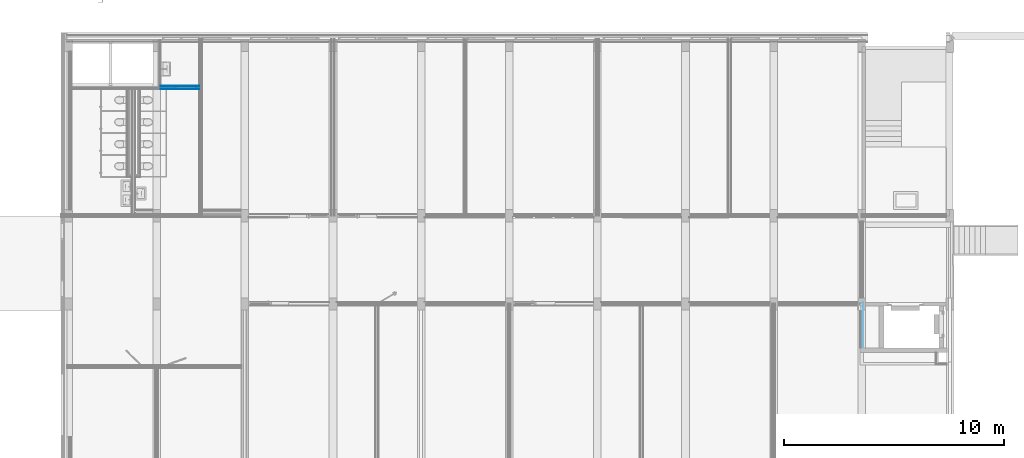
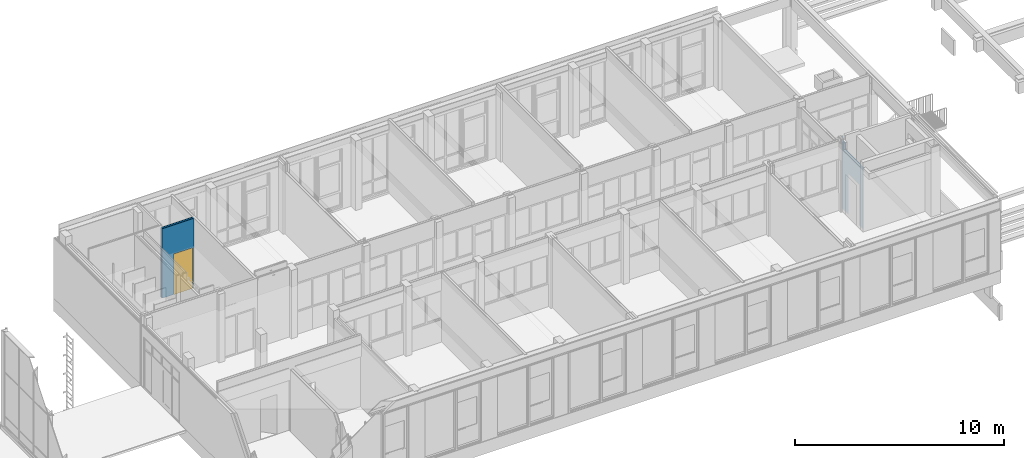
# One storey, part 40 of 54: 5 building element parts, 1 door, 2 openings, 2 elements without a shape of their own, plus 2 elements that do not belong to this part.
"""IFC2X3 building model written with IfcOpenShell, lengths in millimetres."""

import ifcopenshell
import ifcopenshell.guid

model = None  # the IFC model being written
_history = None  # IfcOwnerHistory: only IFC2X3 demands one
_inside = {}  # id of a spatial element -> (the spatial element, [elements in it])
_under = {}  # id of a project, library or spatial element -> (it, [spatial elements below it])
_declared = {}  # id of a project -> (the project, [libraries it declares])
_typed = {}  # id of a type object -> (the type object, [elements of that type])
_made_of = {}  # id of a material, layer set ... -> (it, [elements and type objects made of it])


def new_model(schema):
    """Start an empty IFC model of exactly this schema.

    Asked for "IFC4X3", IfcOpenShell would pick the latest addendum, in which some entities
    have other attributes; the version numbers below select the first issue.
    IFC2X3 requires an IfcOwnerHistory on every rooted entity: one is made here for all.
    """
    global model, _history
    if schema == "IFC4X3":
        model = ifcopenshell.file(schema_version=(4, 3, 0, 0))
    else:
        model = ifcopenshell.file(schema=schema)
    _inside.clear()
    _under.clear()
    _declared.clear()
    _typed.clear()
    _made_of.clear()
    _history = None
    if model.schema == "IFC2X3":
        org = make("IfcOrganization", Name="unknown")
        user = make(
            "IfcPersonAndOrganization",
            ThePerson=make("IfcPerson", FamilyName="unknown"),
            TheOrganization=org,
        )
        app = make(
            "IfcApplication",
            ApplicationDeveloper=org,
            Version="unknown",
            ApplicationFullName="unknown",
            ApplicationIdentifier="unknown",
        )
        _history = make(
            "IfcOwnerHistory",
            OwningUser=user,
            OwningApplication=app,
            ChangeAction="ADDED",
            CreationDate=0,
        )
    return model


def make(cls, **values):
    """One entity of the class cls with the attributes given. An attribute that is None is left unset."""
    return model.create_entity(
        cls, **{name: value for name, value in values.items() if value is not None}
    )


def entity(cls, *values):
    """Any entity or typed value of the class cls, its attributes in the order of the schema. None: left unset."""
    e = model.create_entity(cls)
    for i, value in enumerate(values):
        if value is not None:
            e[i] = value
    return e


def rooted(cls, **values):
    """An entity with a GlobalId (a new one), such as an element, a storey or a relation."""
    return make(cls, GlobalId=ifcopenshell.guid.new(), OwnerHistory=_history, **values)


def si_unit(unit_type, name, prefix=None):
    """IfcSIUnit, for example si_unit("LENGTHUNIT", "METRE", prefix="MILLI")."""
    return make("IfcSIUnit", UnitType=unit_type, Prefix=prefix, Name=name)


def converted_unit(unit_type, name, factor, base, dimensions=None, offset=None):
    """IfcConversionBasedUnit, such as the inch: factor (a typed value) times the base unit."""
    return make(
        "IfcConversionBasedUnit"
        if offset is None
        else "IfcConversionBasedUnitWithOffset",
        ConversionOffset=offset,
        Dimensions=None
        if dimensions is None
        else entity("IfcDimensionalExponents", *dimensions),
        UnitType=unit_type,
        Name=name,
        ConversionFactor=make(
            "IfcMeasureWithUnit", ValueComponent=factor, UnitComponent=base
        ),
    )


def derived_unit(unit_type, elements):
    """IfcDerivedUnit: a product of units, each with its exponent."""
    return make(
        "IfcDerivedUnit",
        Elements=[
            make("IfcDerivedUnitElement", Unit=unit, Exponent=power)
            for unit, power in elements
        ],
        UnitType=unit_type,
    )


def money_unit(currency):
    """IfcMonetaryUnit."""
    return make("IfcMonetaryUnit", Currency=currency)


def assignment(units):
    """IfcUnitAssignment: the units of a project."""
    return None if units is None else make("IfcUnitAssignment", Units=units)


def point(xyz):
    """IfcCartesianPoint."""
    return None if xyz is None else make("IfcCartesianPoint", Coordinates=xyz)


def direction(xyz):
    """IfcDirection."""
    return None if xyz is None else make("IfcDirection", DirectionRatios=xyz)


def frame(location, z_axis=None, x_axis=None):
    """IfcAxis2Placement3D, a coordinate frame: its origin and axes. An axis left out is left unset."""
    return make(
        "IfcAxis2Placement3D",
        Location=point(location),
        Axis=direction(z_axis),
        RefDirection=direction(x_axis),
    )


def origin_with_axes():
    """The frame at (0, 0, 0) with the z axis (0, 0, 1) and the x axis (1, 0, 0) written out."""
    return frame((0.0, 0.0, 0.0), z_axis=(0.0, 0.0, 1.0), x_axis=(1.0, 0.0, 0.0))


def place(relative_to, where):
    """IfcLocalPlacement: puts the frame where relative to a parent placement (None: the world)."""
    return make(
        "IfcLocalPlacement", PlacementRelTo=relative_to, RelativePlacement=where
    )


def context(
    kind, dimensions, precision=None, world=None, true_north=None, identifier=None
):
    """IfcGeometricRepresentationContext, for example the 3D "Model" context."""
    return make(
        "IfcGeometricRepresentationContext",
        ContextIdentifier=identifier,
        ContextType=kind,
        CoordinateSpaceDimension=dimensions,
        Precision=precision,
        WorldCoordinateSystem=world,
        TrueNorth=true_north,
    )


def subcontext(parent, identifier, kind, view, scale=None):
    """IfcGeometricRepresentationSubContext, for example "Body" below "Model"."""
    return make(
        "IfcGeometricRepresentationSubContext",
        ContextIdentifier=identifier,
        ContextType=kind,
        ParentContext=parent,
        TargetScale=scale,
        TargetView=view,
    )


def project(units=None, contexts=None):
    """IfcProject with its units and contexts."""
    return rooted(
        "IfcProject",
        Name="project",
        RepresentationContexts=contexts,
        UnitsInContext=assignment(units),
    )


def spatial(cls, under=None, at=None, **own):
    """A site, building, storey or space (cls), placed at a placement, below another one or the project."""
    s = rooted(cls, ObjectPlacement=at, **own)
    if under is not None:
        _under.setdefault(under.id(), (under, []))[1].append(s)
    return s


def faces_of(points, faces, orient=None, outer=None):
    """IfcFace entities. A face is a list of loops; a loop is a list of indices into points, from 0.

    orient and outer hold one flag for each loop. By default every Orientation is true, the
    first loop of a face is its IfcFaceOuterBound and the others are IfcFaceBound.
    """
    made = []
    for i, loops in enumerate(faces):
        bounds = []
        for j, loop in enumerate(loops):
            is_outer = j == 0 if outer is None else outer[i][j]
            bounds.append(
                make(
                    "IfcFaceOuterBound" if is_outer else "IfcFaceBound",
                    Bound=make("IfcPolyLoop", Polygon=[points[k] for k in loop]),
                    Orientation=True if orient is None else orient[i][j],
                )
            )
        made.append(make("IfcFace", Bounds=bounds))
    return made


def faceted_brep(points, faces, orient=None, outer=None, voids=None):
    """IfcFacetedBrep: a solid bounded by flat faces; with voids (closed shells), ...WithVoids."""
    shared = [point(p) for p in points]
    hull = make("IfcClosedShell", CfsFaces=faces_of(shared, faces, orient, outer))
    if voids is None:
        return make("IfcFacetedBrep", Outer=hull)
    return make(
        "IfcFacetedBrepWithVoids",
        Outer=hull,
        Voids=[
            make(cls, CfsFaces=faces_of(shared, fs, o, b)) for cls, fs, o, b in voids
        ],
    )


def shape(context_of_items, identifier, shape_type, items):
    """IfcShapeRepresentation: the items that make up one representation, for example the "Body"."""
    return make(
        "IfcShapeRepresentation",
        ContextOfItems=context_of_items,
        RepresentationIdentifier=identifier,
        RepresentationType=shape_type,
        Items=items,
    )


def material(Name=None, Category=None):
    """IfcMaterial."""
    return make("IfcMaterial", Name=Name, Category=Category)


def made_of(thing, what):
    """Note that an element or type object is made of a material, layer set ...; save() writes the relation."""
    if what is not None:
        _made_of.setdefault(what.id(), (what, []))[1].append(thing)
    return thing


def type_object(cls, material=None, **own):
    """A type object (cls), such as IfcWallType, which elements share."""
    return made_of(rooted(cls, **own), material)


def element(
    cls,
    number,
    at=None,
    inside=None,
    cuts=None,
    type_object=None,
    material=None,
    context=None,
    identifier="Body",
    shape_type=None,
    held_by="IfcProductDefinitionShape",
    body=None,
    shapes=None,
    **own,
):
    """One element of the class cls, such as IfcWall. Its Tag is "e" and its number.

    at: its placement. inside: the storey or other place that contains it. cuts: it is an
    opening in that element (IfcRelVoidsElement). A single representation is given by context,
    identifier, shape_type and body (its items); several are given by shapes. held_by: the class
    of the entity that holds the representations. save() writes the other relations.
    """
    e = rooted(cls, Tag="e%d" % number, ObjectPlacement=at, **own)
    if body is not None:
        shapes = [shape(context, identifier, shape_type, body)]
    if shapes is not None:
        e.Representation = make(held_by, Representations=shapes)
    if inside is not None:
        _inside.setdefault(inside.id(), (inside, []))[1].append(e)
    if cuts is not None:
        rooted(
            "IfcRelVoidsElement", RelatingBuildingElement=cuts, RelatedOpeningElement=e
        )
    if type_object is not None:
        _typed.setdefault(type_object.id(), (type_object, []))[1].append(e)
    return made_of(e, material)


def fill(opening, filler):
    """IfcRelFillsElement: the door or window that sits in an opening."""
    return rooted(
        "IfcRelFillsElement",
        RelatingOpeningElement=opening,
        RelatedBuildingElement=filler,
    )


def aggregate(whole, parts):
    """IfcRelAggregates: a whole, such as a stair, and the parts it consists of."""
    return rooted("IfcRelAggregates", RelatingObject=whole, RelatedObjects=parts)


def save(model, path):
    """Write the relations noted so far, then the file.

    IfcRelAggregates (storeys below a building ...), IfcRelContainedInSpatialStructure (elements
    in a storey), IfcRelDefinesByType, IfcRelAssociatesMaterial and IfcRelDeclares: one each for
    every whole, place, type object, material and project.
    """
    for whole, parts in _under.values():
        aggregate(whole, parts)
    for where, things in _inside.values():
        rooted(
            "IfcRelContainedInSpatialStructure",
            RelatedElements=things,
            RelatingStructure=where,
        )
    for kind, things in _typed.values():
        rooted("IfcRelDefinesByType", RelatedObjects=things, RelatingType=kind)
    for what, things in _made_of.values():
        rooted("IfcRelAssociatesMaterial", RelatedObjects=things, RelatingMaterial=what)
    for by, libraries in _declared.values():
        rooted("IfcRelDeclares", RelatingContext=by, RelatedDefinitions=libraries)
    model.write(path)


model = new_model("IFC2X3")

# Units and contexts
model_context = context("Model", 3, precision=0.01, world=origin_with_axes(), true_north=direction((0.0, 1.0)))
body_context = subcontext(model_context, "Body", "Model", "MODEL_VIEW")
ifc_project = project(units=[si_unit("LENGTHUNIT", "METRE", prefix="MILLI"), si_unit("AREAUNIT", "SQUARE_METRE"), si_unit("VOLUMEUNIT", "CUBIC_METRE"), converted_unit("PLANEANGLEUNIT", "DEGREE", entity("IfcPlaneAngleMeasure", 0.0174532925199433), si_unit("PLANEANGLEUNIT", "RADIAN"), dimensions=[0, 0, 0, 0, 0, 0, 0]), money_unit("EUR"), converted_unit("TIMEUNIT", "Year", entity("IfcTimeMeasure", 31557600.0), si_unit("TIMEUNIT", "SECOND"), dimensions=[0, 0, 1, 0, 0, 0, 0]), si_unit("MASSUNIT", "GRAM", prefix="KILO"), si_unit("THERMODYNAMICTEMPERATUREUNIT", "DEGREE_CELSIUS"), si_unit("LUMINOUSINTENSITYUNIT", "LUMEN"), si_unit("ENERGYUNIT", "JOULE", prefix="MEGA"), derived_unit("THERMALCONDUCTANCEUNIT", [(si_unit("POWERUNIT", "WATT"), 1), (si_unit("LENGTHUNIT", "METRE"), -1), (si_unit("THERMODYNAMICTEMPERATUREUNIT", "KELVIN"), -1)]), derived_unit("SPECIFICHEATCAPACITYUNIT", [(si_unit("ENERGYUNIT", "JOULE"), 1), (si_unit("MASSUNIT", "GRAM", prefix="KILO"), -1), (si_unit("THERMODYNAMICTEMPERATUREUNIT", "KELVIN"), -1)]), derived_unit("MASSDENSITYUNIT", [(si_unit("MASSUNIT", "GRAM", prefix="KILO"), 1), (si_unit("VOLUMEUNIT", "CUBIC_METRE"), -1)])], contexts=[model_context])

# Site, building, storey
site_placement = place(None, origin_with_axes())
site = spatial("IfcSite", under=ifc_project, at=site_placement, Name="<site naam>", CompositionType="ELEMENT")
building_placement = place(site_placement, origin_with_axes())
building = spatial("IfcBuilding", under=site, at=building_placement, Name="<Naam gebouw>", CompositionType="ELEMENT")
storey_placement = place(building_placement, frame((0.0, 0.0, 8500.0), z_axis=(0.0, 0.0, 1.0), x_axis=(1.0, 0.0, 0.0)))
storey = spatial("IfcBuildingStorey", under=building, at=storey_placement, Name="02 2e verdieping", CompositionType="ELEMENT", Elevation=8500.0)

# Door
door_style = type_object("IfcDoorStyle", Name="D1 27", ConstructionType="NOTDEFINED", OperationType="SINGLE_SWING_LEFT", ParameterTakesPrecedence=False, Sizeable=False)
wall_1_placement = place(storey_placement, frame((18000.10069231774, 17899.99999999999, 0.0), z_axis=(0.0, 0.0, 1.0), x_axis=(-1.0, 0.0, 0.0)))
opening_1_placement = place(wall_1_placement, frame((679.8331591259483, 0.0, 0.0), z_axis=(0.0, 0.0, 1.0), x_axis=(1.0, 0.0, 0.0)))
door_placement = place(opening_1_placement, frame((-449.9999999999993, 0.0, 0.0), z_axis=(0.0, 0.0, 1.0), x_axis=(1.0, 0.0, 0.0)))
door = element("IfcDoor", 1, at=door_placement, inside=storey, type_object=door_style, Name="22_BI-A-04_305", ObjectType="DOOR", OverallHeight=2367.0, OverallWidth=1034.0, context=body_context, shape_type="Brep", body=[
    faceted_brep([(916.9999999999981, 120.000000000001, 12.00000000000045), (916.9999999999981, 160.0000000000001, 12.00000000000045), (-16.99999999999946, 160.0000000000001, 12.00000000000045), (-16.99999999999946, 120.000000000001, 12.00000000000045), (0.0, 120.000000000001, 12.00000000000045), (0.0, 45.99999999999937, 12.00000000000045), (899.9999999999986, 45.99999999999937, 12.00000000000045), (899.9999999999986, 120.000000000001, 12.00000000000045), (916.9999999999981, 120.000000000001, 0.0), (916.9999999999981, 160.0000000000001, 0.0), (-16.99999999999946, 160.0000000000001, 0.0), (-16.99999999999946, 120.000000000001, 0.0), (0.0, 120.000000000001, 0.0), (0.0, 45.99999999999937, 0.0), (899.9999999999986, 45.99999999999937, 0.0), (899.9999999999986, 120.000000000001, 0.0)], [[[0, 1, 2, 3, 4, 5, 6, 7]], [[8, 9, 1, 0]], [[9, 10, 2, 1]], [[11, 3, 2, 10]], [[3, 11, 12, 4]], [[5, 4, 12, 13]], [[6, 5, 13, 14]], [[14, 15, 7, 6]], [[7, 15, 8, 0]], [[15, 14, 13, 12, 11, 10, 9, 8]]]),
    faceted_brep([(899.9999999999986, 120.000000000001, 0.0), (899.9999999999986, 45.99999999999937, 0.0), (899.9999999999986, 45.99999999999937, 2300.000000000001), (899.9999999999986, 120.000000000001, 2300.000000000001), (916.9999999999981, 120.000000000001, 0.0), (916.9999999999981, 160.0000000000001, 0.0), (966.9999999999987, 160.0000000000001, 0.0), (966.9999999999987, 45.99999999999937, 0.0), (966.9999999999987, 45.99999999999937, 2300.000000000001), (916.9999999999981, 120.000000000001, 2300.000000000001), (966.9999999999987, 160.0000000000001, 2300.000000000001), (916.9999999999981, 160.0000000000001, 2300.000000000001)], [[[0, 1, 2, 3]], [[4, 5, 6, 7, 1, 0]], [[1, 7, 8, 2]], [[9, 3, 2, 8, 10, 11]], [[9, 4, 0, 3]], [[11, 5, 4, 9]], [[11, 10, 6, 5]], [[6, 10, 8, 7]]]),
    faceted_brep([(-16.99999999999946, 120.000000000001, 2300.000000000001), (-16.99999999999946, 160.0000000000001, 2300.000000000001), (-67.00000000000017, 160.0000000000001, 2300.000000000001), (-67.00000000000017, 45.99999999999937, 2300.000000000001), (0.0, 45.99999999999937, 2300.000000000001), (0.0, 120.000000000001, 2300.000000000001), (-16.99999999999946, 120.000000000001, 0.0), (-16.99999999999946, 160.0000000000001, 0.0), (-67.00000000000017, 160.0000000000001, 0.0), (-67.00000000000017, 45.99999999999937, 0.0), (0.0, 45.99999999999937, 0.0), (0.0, 120.000000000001, 0.0)], [[[0, 1, 2, 3, 4, 5]], [[0, 6, 7, 1]], [[7, 8, 2, 1]], [[2, 8, 9, 3]], [[3, 9, 10, 4]], [[5, 4, 10, 11]], [[5, 11, 6, 0]], [[6, 11, 10, 9, 8, 7]]]),
    faceted_brep([(916.9999999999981, 160.0000000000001, 2317.0), (-16.99999999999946, 160.0000000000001, 2317.0), (-16.99999999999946, 160.0000000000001, 2300.000000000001), (-67.00000000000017, 160.0000000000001, 2300.000000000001), (-67.00000000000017, 160.0000000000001, 2367.000000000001), (966.9999999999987, 160.0000000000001, 2367.000000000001), (966.9999999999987, 160.0000000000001, 2300.000000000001), (916.9999999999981, 160.0000000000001, 2300.000000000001), (916.9999999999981, 120.000000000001, 2317.0), (-16.99999999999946, 120.000000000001, 2317.0), (-16.99999999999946, 120.000000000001, 2300.000000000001), (0.0, 120.000000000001, 2300.000000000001), (0.0, 45.99999999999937, 2300.000000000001), (-67.00000000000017, 45.99999999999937, 2300.000000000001), (-67.00000000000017, 45.99999999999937, 2367.000000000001), (966.9999999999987, 45.99999999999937, 2367.000000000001), (966.9999999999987, 45.99999999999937, 2300.000000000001), (916.9999999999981, 120.000000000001, 2300.000000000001), (899.9999999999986, 45.99999999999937, 2300.000000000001), (899.9999999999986, 120.000000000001, 2300.000000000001)], [[[0, 1, 2, 3, 4, 5, 6, 7]], [[0, 8, 9, 1]], [[1, 9, 10, 2]], [[10, 11, 12, 13, 3, 2]], [[4, 3, 13, 14]], [[5, 4, 14, 15]], [[6, 5, 15, 16]], [[17, 7, 6, 16, 18, 19]], [[7, 17, 8, 0]], [[10, 9, 8, 17, 19, 11]], [[19, 18, 12, 11]], [[12, 18, 16, 15, 14, 13]]]),
    faceted_brep([(-16.99999999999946, 160.0000000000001, 12.00000000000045), (916.9999999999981, 160.0000000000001, 12.00000000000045), (916.9999999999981, 120.000000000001, 12.00000000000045), (-16.99999999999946, 120.000000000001, 12.00000000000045), (-16.99999999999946, 160.0000000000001, 2317.0), (916.9999999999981, 160.0000000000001, 2317.0), (916.9999999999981, 120.000000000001, 2317.0), (-16.99999999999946, 120.000000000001, 2317.0)], [[[0, 1, 2, 3]], [[0, 4, 5, 1]], [[1, 5, 6, 2]], [[3, 2, 6, 7]], [[4, 0, 3, 7]], [[5, 4, 7, 6]]]),
])

# Wall, opening
wall_type = type_object("IfcWallType", Name="MS-01 GF 150 ECO DGS/2.100.2.A 150", PredefinedType="NOTDEFINED")
wall_1 = element("IfcWall", 2, at=wall_1_placement, inside=storey, type_object=wall_type, Name="22_Binnenwand_MS-01")
opening_1 = element("IfcOpeningElement", 3, at=opening_1_placement, cuts=wall_1, Name="22_BI-A-04_305", context=body_context, shape_type="Brep", body=[
    faceted_brep([(-516.9999999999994, -1.000000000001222, 2367.000000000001), (-516.9999999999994, -1.000000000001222, 0.0), (516.9999999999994, -1.000000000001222, 0.0), (516.9999999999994, -1.000000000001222, 2367.000000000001), (-516.9999999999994, 150.9999999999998, 2367.000000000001), (-516.9999999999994, 150.9999999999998, 0.0), (516.9999999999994, 150.9999999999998, 0.0), (516.9999999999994, 150.9999999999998, 2367.000000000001)], [[[0, 1, 2, 3]], [[4, 5, 1, 0]], [[5, 6, 2, 1]], [[6, 7, 3, 2]], [[7, 4, 0, 3]], [[6, 5, 4, 7]]]),
])

fill(opening_1, door)

# Building element part
ifc_material_1 = material(Name="gipsplaat")
building_element_part_1_placement = place(wall_1_placement, origin_with_axes())
building_element_part_1 = element("IfcBuildingElementPart", 4, at=building_element_part_1_placement, material=ifc_material_1, Name="gipsplaat", context=body_context, shape_type="Brep", body=[
    faceted_brep([(1825.100692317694, 137.4999999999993, 4050.000014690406), (74.99999999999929, 137.4999999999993, 4050.000014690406), (74.99999999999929, 137.4999999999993, 0.0), (75.16236737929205, 137.4999999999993, 0.0), (75.16236737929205, 137.4999999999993, 3.000000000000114), (1825.100692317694, 137.4999999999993, 3.000000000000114), (74.99999999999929, 149.9999999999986, 4050.000014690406), (1825.100692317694, 149.9999996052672, 4050.000014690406), (74.99999999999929, 149.9999999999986, 0.0), (75.16236737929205, 149.9999999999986, 0.0), (75.16236737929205, 149.9999999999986, 3.000000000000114), (1825.100692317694, 149.999992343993, 3.000000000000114)], [[[0, 1, 2, 3, 4, 5]], [[6, 1, 0, 7]], [[1, 6, 8, 2]], [[8, 9, 3, 2]], [[10, 4, 3, 9]], [[11, 5, 4, 10]], [[7, 0, 5, 11]], [[6, 7, 11, 10, 9, 8]]]),
])

building_element_part_2_placement = place(wall_1_placement, origin_with_axes())
building_element_part_2 = element("IfcBuildingElementPart", 5, at=building_element_part_2_placement, material=ifc_material_1, Name="gipsplaat", context=body_context, shape_type="Brep", body=[
    faceted_brep([(1825.100692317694, 125.0, 4050.000014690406), (74.99999999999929, 125.0, 4050.000014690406), (74.99999999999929, 125.0, 0.0), (75.16236737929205, 125.0, 0.0), (75.16236737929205, 125.0, 3.000000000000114), (1825.100692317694, 125.0, 3.000000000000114), (74.99999999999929, 137.4999999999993, 4050.000014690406), (1825.100692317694, 137.4999999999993, 4050.000014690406), (74.99999999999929, 137.4999999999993, 0.0), (75.16236737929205, 137.4999999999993, 0.0), (75.16236737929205, 137.4999999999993, 3.000000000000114), (1825.100692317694, 137.4999999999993, 3.000000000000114)], [[[0, 1, 2, 3, 4, 5]], [[6, 1, 0, 7]], [[1, 6, 8, 2]], [[8, 9, 3, 2]], [[10, 4, 3, 9]], [[11, 5, 4, 10]], [[7, 0, 5, 11]], [[6, 7, 11, 10, 9, 8]]]),
])

ifc_material_2 = material(Name="isolatie_steenwol LSW")
building_element_part_3_placement = place(wall_1_placement, origin_with_axes())
building_element_part_3 = element("IfcBuildingElementPart", 6, at=building_element_part_3_placement, material=ifc_material_2, Name="isolatie_steenwol LSW", context=body_context, shape_type="Brep", body=[
    faceted_brep([(1825.100692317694, 24.99999999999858, 4050.000014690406), (74.99999999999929, 24.99999999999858, 4050.000014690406), (74.99999999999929, 24.99999999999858, 0.0), (75.16236737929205, 24.99999999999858, 0.0), (75.16236737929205, 24.99999999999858, 3.000000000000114), (1825.100692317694, 24.99999999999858, 3.000000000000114), (74.99999999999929, 125.0, 4050.000014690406), (1825.100692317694, 125.0, 4050.000014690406), (74.99999999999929, 125.0, 0.0), (75.16236737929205, 125.0, 0.0), (75.16236737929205, 125.0, 3.000000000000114), (1825.100692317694, 125.0, 3.000000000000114)], [[[0, 1, 2, 3, 4, 5]], [[6, 1, 0, 7]], [[1, 6, 8, 2]], [[8, 9, 3, 2]], [[10, 4, 3, 9]], [[11, 5, 4, 10]], [[7, 0, 5, 11]], [[6, 7, 11, 10, 9, 8]]]),
])

building_element_part_4_placement = place(wall_1_placement, origin_with_axes())
building_element_part_4 = element("IfcBuildingElementPart", 7, at=building_element_part_4_placement, material=ifc_material_1, Name="gipsplaat", context=body_context, shape_type="Brep", body=[
    faceted_brep([(1825.100692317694, 12.49999999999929, 4050.000014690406), (74.99999999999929, 12.49999999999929, 4050.000014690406), (74.99999999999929, 12.49999999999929, 0.0), (75.16236737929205, 12.49999999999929, 0.0), (75.16236737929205, 12.49999999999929, 3.000000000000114), (1825.100692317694, 12.49999999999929, 3.000000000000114), (74.99999999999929, 24.99999999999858, 4050.000014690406), (1825.100692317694, 24.99999999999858, 4050.000014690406), (74.99999999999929, 24.99999999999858, 0.0), (75.16236737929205, 24.99999999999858, 0.0), (75.16236737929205, 24.99999999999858, 3.000000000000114), (1825.100692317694, 24.99999999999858, 3.000000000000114)], [[[0, 1, 2, 3, 4, 5]], [[6, 1, 0, 7]], [[1, 6, 8, 2]], [[8, 9, 3, 2]], [[10, 4, 3, 9]], [[11, 5, 4, 10]], [[7, 0, 5, 11]], [[6, 7, 11, 10, 9, 8]]]),
])

building_element_part_5_placement = place(wall_1_placement, origin_with_axes())
building_element_part_5 = element("IfcBuildingElementPart", 8, at=building_element_part_5_placement, material=ifc_material_1, Name="gipsplaat", context=body_context, shape_type="Brep", body=[
    faceted_brep([(1825.100692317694, 0.0, 4050.000014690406), (74.99999999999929, 0.0, 4050.000014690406), (74.99999999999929, 0.0, 0.0), (75.16236737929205, 0.0, 0.0), (75.16236737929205, 0.0, 3.000000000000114), (1825.100692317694, 0.0, 3.000000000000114), (74.99999999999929, 12.49999999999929, 4050.000014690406), (1825.100692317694, 12.49999999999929, 4050.000014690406), (74.99999999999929, 12.49999999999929, 0.0), (75.16236737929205, 12.49999999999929, 0.0), (75.16236737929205, 12.49999999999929, 3.000000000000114), (1825.100692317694, 12.49999999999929, 3.000000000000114)], [[[0, 1, 2, 3, 4, 5]], [[6, 1, 0, 7]], [[1, 6, 8, 2]], [[8, 9, 3, 2]], [[10, 4, 3, 9]], [[11, 5, 4, 10]], [[7, 0, 5, 11]], [[6, 7, 11, 10, 9, 8]]]),
])

aggregate(wall_1, [building_element_part_1, building_element_part_2, building_element_part_3, building_element_part_4, building_element_part_5])

# Wall, opening, building element parts
wall_2_placement = place(storey_placement, frame((48000.00000000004, 8000.000000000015, 0.0), z_axis=(0.0, 0.0, 1.0), x_axis=(0.0, -1.0, 0.0)))
wall_2 = element("IfcWall", 9, at=wall_2_placement, inside=storey, type_object=wall_type, Name="22_Binnenwand_MS-01")
opening_2_placement = place(wall_2_placement, frame((1094.999999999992, 0.0, 0.0), z_axis=(0.0, 0.0, 1.0), x_axis=(1.0, 0.0, 0.0)))
element("IfcOpeningElement", 10, at=opening_2_placement, cuts=wall_2, Name="22_BI-A-04 sp_305", context=body_context, shape_type="Brep", body=[
    faceted_brep([(517.0000000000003, 76.00000000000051, 2367.000000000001), (517.0000000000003, 76.00000000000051, 0.0), (-517.0000000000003, 76.00000000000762, 0.0), (-517.0000000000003, 76.00000000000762, 2367.000000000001), (517.0000000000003, -76.00000000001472, 2367.000000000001), (517.0000000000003, -76.00000000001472, 0.0), (-517.0000000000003, -76.00000000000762, 0.0), (-517.0000000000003, -76.00000000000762, 2367.000000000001)], [[[0, 1, 2, 3]], [[4, 5, 1, 0]], [[5, 6, 2, 1]], [[6, 7, 3, 2]], [[7, 4, 0, 3]], [[6, 5, 4, 7]]]),
])
building_element_part_6_placement = place(wall_2_placement, origin_with_axes())
building_element_part_6 = element("IfcBuildingElementPart", 11, at=building_element_part_6_placement, material=ifc_material_1, Name="gipsplaat", context=body_context, shape_type="Brep", body=[
    faceted_brep([(5.546149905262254, 62.5, 4250.0), (5.546149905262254, 75.00000000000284, 4250.0), (0.0, 75.00000000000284, 4250.0), (0.0, 62.5, 4250.0), (5.546149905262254, 75.00000000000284, 3990.0), (5.546149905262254, 62.5, 3990.0), (274.9999999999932, 75.00000000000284, 3610.000000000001), (1995.000001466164, 75.00000000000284, 3610.000000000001), (1995.000001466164, 75.00000000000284, 0.0), (-75.0000274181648, 75.00000000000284, 0.0), (-75.0000274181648, 75.00000000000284, 4119.999999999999), (0.0, 75.00000000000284, 4119.999999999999), (274.9999999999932, 75.00000000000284, 3990.0), (0.0, 62.5, 4119.999999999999), (-75.0000274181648, 62.5, 4119.999999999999), (-75.0000274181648, 62.5, 0.0), (1995.000001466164, 62.5, 0.0), (1995.000001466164, 62.5, 3610.000000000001), (274.9999999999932, 62.5, 3610.000000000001), (274.9999999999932, 62.5, 3990.0)], [[[0, 1, 2, 3]], [[4, 1, 0, 5]], [[6, 7, 8, 9, 10, 11, 2, 1, 4, 12]], [[3, 2, 11, 13]], [[5, 0, 3, 13, 14, 15, 16, 17, 18, 19]], [[12, 4, 5, 19]], [[7, 6, 18, 17]], [[7, 17, 16, 8]], [[16, 15, 9, 8]], [[14, 10, 9, 15]], [[11, 10, 14, 13]], [[6, 12, 19, 18]]]),
])
building_element_part_7_placement = place(wall_2_placement, origin_with_axes())
building_element_part_7 = element("IfcBuildingElementPart", 12, at=building_element_part_7_placement, material=ifc_material_1, Name="gipsplaat", context=body_context, shape_type="Brep", body=[
    faceted_brep([(5.546149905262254, 49.99999999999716, 4250.0), (5.546149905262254, 62.5, 4250.0), (0.0, 62.5, 4250.0), (0.0, 49.99999999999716, 4250.0), (5.546149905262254, 62.5, 3990.0), (5.546149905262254, 49.99999999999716, 3990.0), (274.9999999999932, 62.5, 3610.000000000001), (1995.000001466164, 62.5, 3610.000000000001), (1995.000001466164, 62.5, 0.0), (-62.50000000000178, 62.5, 0.0), (-62.50000000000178, 62.5, 4119.999999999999), (0.0, 62.5, 4119.999999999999), (274.9999999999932, 62.5, 3990.0), (0.0, 49.99999999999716, 4119.999999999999), (-62.50000000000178, 49.99999999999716, 4119.999999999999), (-62.50000000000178, 49.99999999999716, 0.0), (1995.000001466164, 49.99999999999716, 0.0), (1995.000001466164, 49.99999999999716, 3610.000000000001), (274.9999999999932, 49.99999999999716, 3610.000000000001), (274.9999999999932, 49.99999999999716, 3990.0)], [[[0, 1, 2, 3]], [[4, 1, 0, 5]], [[6, 7, 8, 9, 10, 11, 2, 1, 4, 12]], [[3, 2, 11, 13]], [[5, 0, 3, 13, 14, 15, 16, 17, 18, 19]], [[12, 4, 5, 19]], [[7, 6, 18, 17]], [[7, 17, 16, 8]], [[9, 8, 16, 15]], [[10, 9, 15, 14]], [[14, 13, 11, 10]], [[6, 12, 19, 18]]]),
])
aggregate(wall_2, [building_element_part_6, building_element_part_7])

save(model, "model.ifc")
